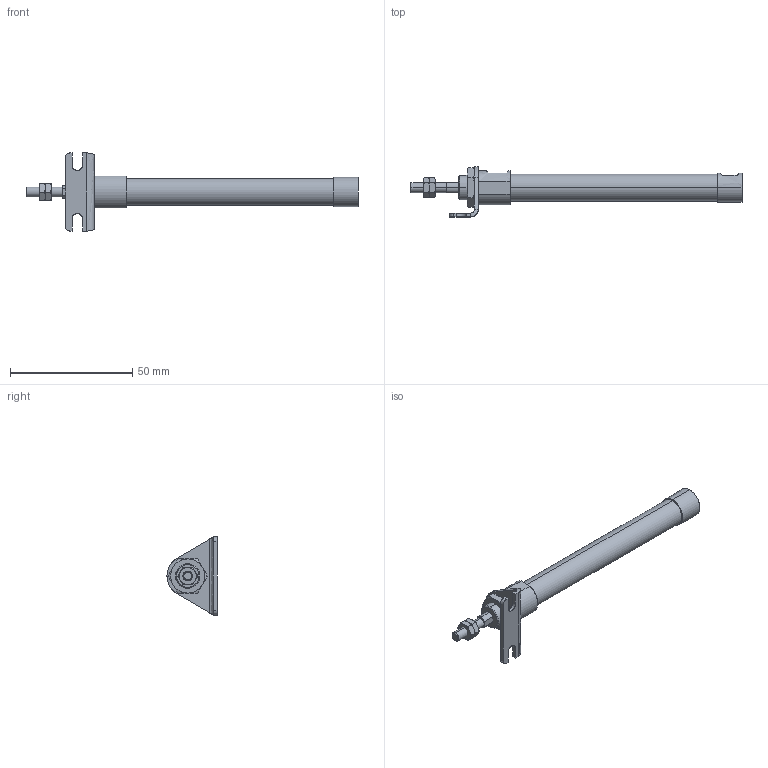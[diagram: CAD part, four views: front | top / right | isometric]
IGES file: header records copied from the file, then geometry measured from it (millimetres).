
Start section: SolidWorks IGES file using analytic representation for surfaces
Global section: file name: C:\Users\Toshiba\Desktop\ZGU2-10-60-L.IGS; native system: SolidWorks 2014; preprocessor: SolidWorks 2014; author: Toshiba; date: 160331.085506; units: millimetre
Bounding box: 136 x 20.5 x 32 mm (x, y, z)
Surface area: 7073.3 mm2 (no closed solid volume)
Topology: 0 solids, 0 shells, 134 faces, 1934 edges, 1930 vertices
Faces by surface type: bspline 94, revolution 40
